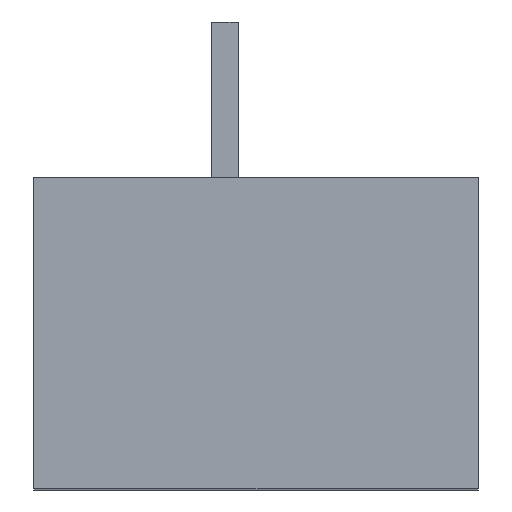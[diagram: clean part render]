
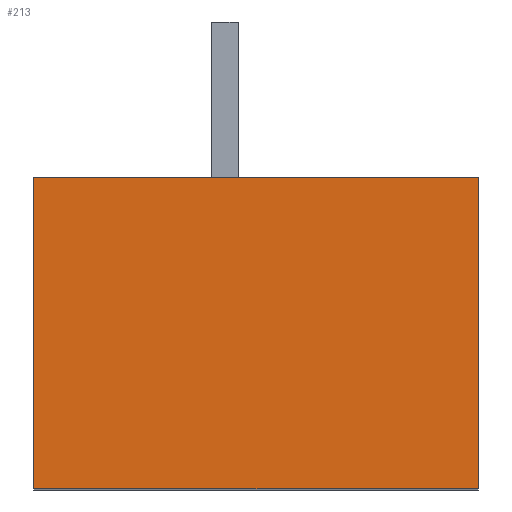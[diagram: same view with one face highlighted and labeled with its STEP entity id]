
A CAD part, top view. The second image highlights one B-rep face of the part: STEP entity #213.
In plain terms, the highlighted planar face has unit normal (0, 0, 1).
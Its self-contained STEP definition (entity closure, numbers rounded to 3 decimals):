
#24 = VERTEX_POINT('',#25);
#25 = CARTESIAN_POINT('',(23.,20.95,-57.75));
#32 = PLANE('',#33);
#33 = AXIS2_PLACEMENT_3D('',#34,#35,#36);
#34 = CARTESIAN_POINT('',(23.,20.95,-67.25));
#35 = DIRECTION('',(1.,0.,-0.));
#36 = DIRECTION('',(0.,0.,1.));
#44 = PLANE('',#45);
#45 = AXIS2_PLACEMENT_3D('',#46,#47,#48);
#46 = CARTESIAN_POINT('',(23.,20.95,-67.25));
#47 = DIRECTION('',(-0.,1.,0.));
#48 = DIRECTION('',(0.,0.,1.));
#85 = VERTEX_POINT('',#86);
#86 = CARTESIAN_POINT('',(23.,24.45,-57.75));
#100 = PLANE('',#101);
#101 = AXIS2_PLACEMENT_3D('',#102,#103,#104);
#102 = CARTESIAN_POINT('',(23.,24.45,-67.25));
#103 = DIRECTION('',(-0.,1.,0.));
#104 = DIRECTION('',(0.,0.,1.));
#112 = EDGE_CURVE('',#24,#85,#113,.T.);
#113 = SURFACE_CURVE('',#114,(#118,#125),.PCURVE_S1.);
#114 = LINE('',#115,#116);
#115 = CARTESIAN_POINT('',(23.,20.95,-57.75));
#116 = VECTOR('',#117,1.);
#117 = DIRECTION('',(-0.,1.,0.));
#118 = PCURVE('',#32,#119);
#119 = DEFINITIONAL_REPRESENTATION('',(#120),#124);
#120 = LINE('',#121,#122);
#121 = CARTESIAN_POINT('',(9.5,0.));
#122 = VECTOR('',#123,1.);
#123 = DIRECTION('',(0.,-1.));
#124 = ( GEOMETRIC_REPRESENTATION_CONTEXT(2) 
PARAMETRIC_REPRESENTATION_CONTEXT() REPRESENTATION_CONTEXT('2D SPACE',''
  ) );
#125 = PCURVE('',#126,#131);
#126 = PLANE('',#127);
#127 = AXIS2_PLACEMENT_3D('',#128,#129,#130);
#128 = CARTESIAN_POINT('',(23.,20.95,-57.75));
#129 = DIRECTION('',(0.,0.,1.));
#130 = DIRECTION('',(1.,0.,-0.));
#131 = DEFINITIONAL_REPRESENTATION('',(#132),#136);
#132 = LINE('',#133,#134);
#133 = CARTESIAN_POINT('',(0.,0.));
#134 = VECTOR('',#135,1.);
#135 = DIRECTION('',(0.,1.));
#136 = ( GEOMETRIC_REPRESENTATION_CONTEXT(2) 
PARAMETRIC_REPRESENTATION_CONTEXT() REPRESENTATION_CONTEXT('2D SPACE',''
  ) );
#165 = EDGE_CURVE('',#24,#166,#168,.T.);
#166 = VERTEX_POINT('',#167);
#167 = CARTESIAN_POINT('',(28.,20.95,-57.75));
#168 = SURFACE_CURVE('',#169,(#173,#180),.PCURVE_S1.);
#169 = LINE('',#170,#171);
#170 = CARTESIAN_POINT('',(23.,20.95,-57.75));
#171 = VECTOR('',#172,1.);
#172 = DIRECTION('',(1.,0.,-0.));
#173 = PCURVE('',#44,#174);
#174 = DEFINITIONAL_REPRESENTATION('',(#175),#179);
#175 = LINE('',#176,#177);
#176 = CARTESIAN_POINT('',(9.5,0.));
#177 = VECTOR('',#178,1.);
#178 = DIRECTION('',(0.,1.));
#179 = ( GEOMETRIC_REPRESENTATION_CONTEXT(2) 
PARAMETRIC_REPRESENTATION_CONTEXT() REPRESENTATION_CONTEXT('2D SPACE',''
  ) );
#180 = PCURVE('',#126,#181);
#181 = DEFINITIONAL_REPRESENTATION('',(#182),#186);
#182 = LINE('',#183,#184);
#183 = CARTESIAN_POINT('',(0.,0.));
#184 = VECTOR('',#185,1.);
#185 = DIRECTION('',(1.,0.));
#186 = ( GEOMETRIC_REPRESENTATION_CONTEXT(2) 
PARAMETRIC_REPRESENTATION_CONTEXT() REPRESENTATION_CONTEXT('2D SPACE',''
  ) );
#202 = PLANE('',#203);
#203 = AXIS2_PLACEMENT_3D('',#204,#205,#206);
#204 = CARTESIAN_POINT('',(28.,20.95,-67.25));
#205 = DIRECTION('',(1.,0.,-0.));
#206 = DIRECTION('',(0.,0.,1.));
#213 = ADVANCED_FACE('',(#214),#126,.T.);
#214 = FACE_BOUND('',#215,.T.);
#215 = EDGE_LOOP('',(#216,#217,#218,#241));
#216 = ORIENTED_EDGE('',*,*,#112,.F.);
#217 = ORIENTED_EDGE('',*,*,#165,.T.);
#218 = ORIENTED_EDGE('',*,*,#219,.T.);
#219 = EDGE_CURVE('',#166,#220,#222,.T.);
#220 = VERTEX_POINT('',#221);
#221 = CARTESIAN_POINT('',(28.,24.45,-57.75));
#222 = SURFACE_CURVE('',#223,(#227,#234),.PCURVE_S1.);
#223 = LINE('',#224,#225);
#224 = CARTESIAN_POINT('',(28.,20.95,-57.75));
#225 = VECTOR('',#226,1.);
#226 = DIRECTION('',(-0.,1.,0.));
#227 = PCURVE('',#126,#228);
#228 = DEFINITIONAL_REPRESENTATION('',(#229),#233);
#229 = LINE('',#230,#231);
#230 = CARTESIAN_POINT('',(5.,0.));
#231 = VECTOR('',#232,1.);
#232 = DIRECTION('',(0.,1.));
#233 = ( GEOMETRIC_REPRESENTATION_CONTEXT(2) 
PARAMETRIC_REPRESENTATION_CONTEXT() REPRESENTATION_CONTEXT('2D SPACE',''
  ) );
#234 = PCURVE('',#202,#235);
#235 = DEFINITIONAL_REPRESENTATION('',(#236),#240);
#236 = LINE('',#237,#238);
#237 = CARTESIAN_POINT('',(9.5,0.));
#238 = VECTOR('',#239,1.);
#239 = DIRECTION('',(0.,-1.));
#240 = ( GEOMETRIC_REPRESENTATION_CONTEXT(2) 
PARAMETRIC_REPRESENTATION_CONTEXT() REPRESENTATION_CONTEXT('2D SPACE',''
  ) );
#241 = ORIENTED_EDGE('',*,*,#242,.F.);
#242 = EDGE_CURVE('',#85,#220,#243,.T.);
#243 = SURFACE_CURVE('',#244,(#248,#255),.PCURVE_S1.);
#244 = LINE('',#245,#246);
#245 = CARTESIAN_POINT('',(23.,24.45,-57.75));
#246 = VECTOR('',#247,1.);
#247 = DIRECTION('',(1.,0.,-0.));
#248 = PCURVE('',#126,#249);
#249 = DEFINITIONAL_REPRESENTATION('',(#250),#254);
#250 = LINE('',#251,#252);
#251 = CARTESIAN_POINT('',(0.,3.5));
#252 = VECTOR('',#253,1.);
#253 = DIRECTION('',(1.,0.));
#254 = ( GEOMETRIC_REPRESENTATION_CONTEXT(2) 
PARAMETRIC_REPRESENTATION_CONTEXT() REPRESENTATION_CONTEXT('2D SPACE',''
  ) );
#255 = PCURVE('',#100,#256);
#256 = DEFINITIONAL_REPRESENTATION('',(#257),#261);
#257 = LINE('',#258,#259);
#258 = CARTESIAN_POINT('',(9.5,0.));
#259 = VECTOR('',#260,1.);
#260 = DIRECTION('',(0.,1.));
#261 = ( GEOMETRIC_REPRESENTATION_CONTEXT(2) 
PARAMETRIC_REPRESENTATION_CONTEXT() REPRESENTATION_CONTEXT('2D SPACE',''
  ) );
